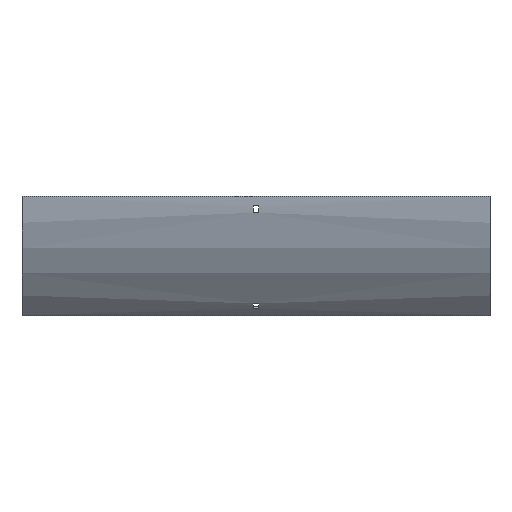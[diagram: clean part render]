
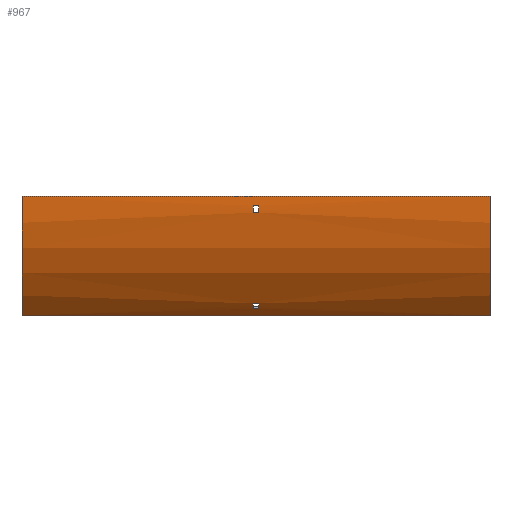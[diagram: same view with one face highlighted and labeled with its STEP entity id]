
A CAD part, front view. The second image highlights one B-rep face of the part: STEP entity #967.
In plain terms, the highlighted cylindrical face has radius 217.5 mm (diameter 435 mm), a partial arc.
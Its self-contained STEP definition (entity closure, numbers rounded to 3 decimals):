
#3 = ORIENTED_EDGE ( 'NONE', *, *, #60, .F. ) ;
#20 = DIRECTION ( 'NONE',  ( 0., 0., 1. ) ) ;
#55 = CARTESIAN_POINT ( 'NONE',  ( 302., -116.484, -21. ) ) ;
#60 = EDGE_CURVE ( 'NONE', #991, #1107, #886, .T. ) ;
#85 = CARTESIAN_POINT ( 'NONE',  ( -302., -117.5, 0. ) ) ;
#90 = EDGE_CURVE ( 'NONE', #933, #326, #556, .T. ) ;
#105 = CARTESIAN_POINT ( 'NONE',  ( 3.25, -67.926, -138.228 ) ) ;
#120 = VERTEX_POINT ( 'NONE', #1635 ) ;
#141 = CARTESIAN_POINT ( 'NONE',  ( 302., -117.169, -12. ) ) ;
#150 = DIRECTION ( 'NONE',  ( 1., 0., 0. ) ) ;
#167 = AXIS2_PLACEMENT_3D ( 'NONE', #1413, #598, #1519 ) ;
#208 = EDGE_CURVE ( 'NONE', #902, #1194, #332, .T. ) ;
#209 = DIRECTION ( 'NONE',  ( -1., 0., 0. ) ) ;
#226 = CARTESIAN_POINT ( 'NONE',  ( -3.25, 100., 0. ) ) ;
#253 = LINE ( 'NONE', #141, #1458 ) ;
#279 = AXIS2_PLACEMENT_3D ( 'NONE', #1527, #1521, #1392 ) ;
#281 = CARTESIAN_POINT ( 'NONE',  ( 302., -62.047, -145.076 ) ) ;
#293 = ORIENTED_EDGE ( 'NONE', *, *, #1440, .T. ) ;
#301 = CARTESIAN_POINT ( 'NONE',  ( -3.25, 100., 0. ) ) ;
#303 = CIRCLE ( 'NONE', #1025, 217.5 ) ;
#326 = VERTEX_POINT ( 'NONE', #926 ) ;
#327 = CARTESIAN_POINT ( 'NONE',  ( -302., -53.796, -153.796 ) ) ;
#332 = CIRCLE ( 'NONE', #1218, 217.5 ) ;
#362 = DIRECTION ( 'NONE',  ( 1., 0., 0. ) ) ;
#364 = VERTEX_POINT ( 'NONE', #327 ) ;
#386 = VECTOR ( 'NONE', #567, 1000. ) ;
#402 = EDGE_CURVE ( 'NONE', #909, #933, #1365, .T. ) ;
#412 = DIRECTION ( 'NONE',  ( -1., 0., 0. ) ) ;
#439 = CARTESIAN_POINT ( 'NONE',  ( 302., -67.926, -138.228 ) ) ;
#442 = DIRECTION ( 'NONE',  ( 1., 0., 0. ) ) ;
#473 = ORIENTED_EDGE ( 'NONE', *, *, #1101, .F. ) ;
#504 = EDGE_CURVE ( 'NONE', #1417, #909, #610, .T. ) ;
#519 = VERTEX_POINT ( 'NONE', #85 ) ;
#520 = EDGE_CURVE ( 'NONE', #519, #364, #1330, .T. ) ;
#521 = ORIENTED_EDGE ( 'NONE', *, *, #504, .T. ) ;
#525 = CARTESIAN_POINT ( 'NONE',  ( 302., -117.5, 0. ) ) ;
#545 = CARTESIAN_POINT ( 'NONE',  ( 302., -53.796, -153.796 ) ) ;
#551 = DIRECTION ( 'NONE',  ( -1., 0., 0. ) ) ;
#556 = CIRCLE ( 'NONE', #632, 217.5 ) ;
#567 = DIRECTION ( 'NONE',  ( -1., 0., 0. ) ) ;
#569 = DIRECTION ( 'NONE',  ( 0., 0., -1. ) ) ;
#591 = ORIENTED_EDGE ( 'NONE', *, *, #520, .T. ) ;
#598 = DIRECTION ( 'NONE',  ( 1., 0., 0. ) ) ;
#599 = ORIENTED_EDGE ( 'NONE', *, *, #715, .F. ) ;
#602 = DIRECTION ( 'NONE',  ( -1., 0., 0. ) ) ;
#610 = CIRCLE ( 'NONE', #279, 217.5 ) ;
#613 = CARTESIAN_POINT ( 'NONE',  ( -302., 100., 0. ) ) ;
#627 = EDGE_CURVE ( 'NONE', #712, #902, #679, .T. ) ;
#631 = CARTESIAN_POINT ( 'NONE',  ( 3.25, 100., 0. ) ) ;
#632 = AXIS2_PLACEMENT_3D ( 'NONE', #226, #209, #728 ) ;
#644 = ORIENTED_EDGE ( 'NONE', *, *, #627, .F. ) ;
#661 = CYLINDRICAL_SURFACE ( 'NONE', #1479, 217.5 ) ;
#679 = LINE ( 'NONE', #281, #917 ) ;
#682 = LINE ( 'NONE', #545, #1410 ) ;
#686 = ORIENTED_EDGE ( 'NONE', *, *, #208, .F. ) ;
#712 = VERTEX_POINT ( 'NONE', #1242 ) ;
#715 = EDGE_CURVE ( 'NONE', #120, #712, #303, .T. ) ;
#728 = DIRECTION ( 'NONE',  ( 0., 0., 1. ) ) ;
#750 = CARTESIAN_POINT ( 'NONE',  ( 302., -117.5, 0. ) ) ;
#800 = FACE_BOUND ( 'NONE', #1135, .T. ) ;
#807 = DIRECTION ( 'NONE',  ( 1., 0., 0. ) ) ;
#810 = VECTOR ( 'NONE', #602, 1000. ) ;
#831 = AXIS2_PLACEMENT_3D ( 'NONE', #613, #362, #1156 ) ;
#846 = DIRECTION ( 'NONE',  ( -1., 0., 0. ) ) ;
#883 = DIRECTION ( 'NONE',  ( -1., 0., 0. ) ) ;
#886 = CIRCLE ( 'NONE', #167, 217.5 ) ;
#902 = VERTEX_POINT ( 'NONE', #1019 ) ;
#909 = VERTEX_POINT ( 'NONE', #1079 ) ;
#917 = VECTOR ( 'NONE', #807, 1000. ) ;
#921 = ORIENTED_EDGE ( 'NONE', *, *, #402, .T. ) ;
#926 = CARTESIAN_POINT ( 'NONE',  ( -3.25, -117.169, -12. ) ) ;
#933 = VERTEX_POINT ( 'NONE', #939 ) ;
#939 = CARTESIAN_POINT ( 'NONE',  ( -3.25, -116.484, -21. ) ) ;
#956 = EDGE_LOOP ( 'NONE', ( #921, #988, #1494, #521 ) ) ;
#967 = ADVANCED_FACE ( 'NONE', ( #1338, #1190, #800 ), #661, .T. ) ;
#988 = ORIENTED_EDGE ( 'NONE', *, *, #90, .T. ) ;
#991 = VERTEX_POINT ( 'NONE', #525 ) ;
#994 = EDGE_CURVE ( 'NONE', #326, #1417, #253, .T. ) ;
#1019 = CARTESIAN_POINT ( 'NONE',  ( 3.25, -62.047, -145.076 ) ) ;
#1025 = AXIS2_PLACEMENT_3D ( 'NONE', #301, #442, #569 ) ;
#1047 = DIRECTION ( 'NONE',  ( 0., 0., 1. ) ) ;
#1053 = CARTESIAN_POINT ( 'NONE',  ( 3.25, -117.169, -12. ) ) ;
#1079 = CARTESIAN_POINT ( 'NONE',  ( 3.25, -116.484, -21. ) ) ;
#1101 = EDGE_CURVE ( 'NONE', #1194, #120, #1465, .T. ) ;
#1107 = VERTEX_POINT ( 'NONE', #1112 ) ;
#1112 = CARTESIAN_POINT ( 'NONE',  ( 302., -53.796, -153.796 ) ) ;
#1135 = EDGE_LOOP ( 'NONE', ( #599, #473, #686, #644 ) ) ;
#1137 = LINE ( 'NONE', #750, #810 ) ;
#1156 = DIRECTION ( 'NONE',  ( 0., 0., -1. ) ) ;
#1190 = FACE_BOUND ( 'NONE', #956, .T. ) ;
#1194 = VERTEX_POINT ( 'NONE', #105 ) ;
#1218 = AXIS2_PLACEMENT_3D ( 'NONE', #631, #883, #1047 ) ;
#1242 = CARTESIAN_POINT ( 'NONE',  ( -3.25, -62.047, -145.076 ) ) ;
#1330 = CIRCLE ( 'NONE', #831, 217.5 ) ;
#1338 = FACE_OUTER_BOUND ( 'NONE', #1525, .T. ) ;
#1365 = LINE ( 'NONE', #55, #1601 ) ;
#1392 = DIRECTION ( 'NONE',  ( 0., 0., -1. ) ) ;
#1410 = VECTOR ( 'NONE', #551, 1000. ) ;
#1413 = CARTESIAN_POINT ( 'NONE',  ( 302., 100., 0. ) ) ;
#1417 = VERTEX_POINT ( 'NONE', #1053 ) ;
#1422 = CARTESIAN_POINT ( 'NONE',  ( 302., 100., 0. ) ) ;
#1429 = ORIENTED_EDGE ( 'NONE', *, *, #1517, .F. ) ;
#1440 = EDGE_CURVE ( 'NONE', #991, #519, #1137, .T. ) ;
#1458 = VECTOR ( 'NONE', #150, 1000. ) ;
#1465 = LINE ( 'NONE', #439, #386 ) ;
#1479 = AXIS2_PLACEMENT_3D ( 'NONE', #1422, #412, #20 ) ;
#1494 = ORIENTED_EDGE ( 'NONE', *, *, #994, .T. ) ;
#1517 = EDGE_CURVE ( 'NONE', #1107, #364, #682, .T. ) ;
#1519 = DIRECTION ( 'NONE',  ( 0., 0., -1. ) ) ;
#1521 = DIRECTION ( 'NONE',  ( 1., 0., 0. ) ) ;
#1525 = EDGE_LOOP ( 'NONE', ( #591, #1429, #3, #293 ) ) ;
#1527 = CARTESIAN_POINT ( 'NONE',  ( 3.25, 100., 0. ) ) ;
#1601 = VECTOR ( 'NONE', #846, 1000. ) ;
#1635 = CARTESIAN_POINT ( 'NONE',  ( -3.25, -67.926, -138.228 ) ) ;
